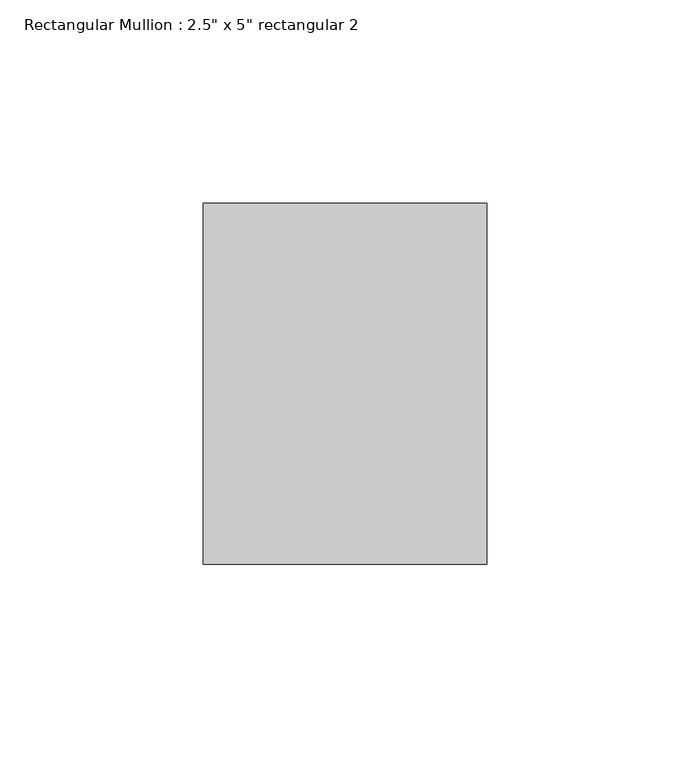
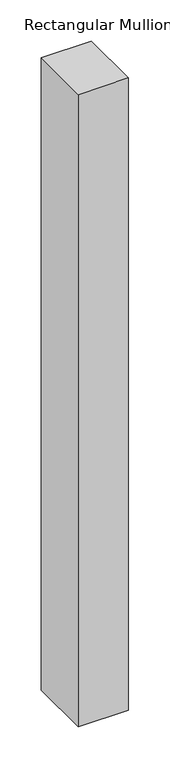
"""IFC4 building model written with IfcOpenShell, lengths in millimetres: member geometry."""

from ifc_helpers import new_model, si_unit, frame, origin, place, context, project, spatial, polyline, outline, extrude, source, transform, mapped, element, save


def member_37db2805(model_context):
    return source(origin(), model_context, "Body", "SweptSolid", [
        extrude(outline(polyline([(38.1, 44.45), (38.1, -44.45), (-31.75, -44.45), (-31.75, 44.45), (38.1, 44.45)])), frame((0.0, 0.0, -931.7559364), z_axis=(0.0, 0.0, 1.0), x_axis=(1.0, 0.0, 0.0)), (0.0, 0.0, 1.0), 931.7559364),
    ])


if __name__ == "__main__":
    model = new_model("IFC4")
    model_context = context("Model", 3, world=origin())
    ifc_project = project(units=[si_unit("LENGTHUNIT", "METRE", prefix="MILLI")], contexts=[model_context])
    site = spatial("IfcSite", under=ifc_project)
    building = spatial("IfcBuilding", under=site)
    placement = place(None, origin())
    member_shape = member_37db2805(model_context)
    element("IfcMember", 1, ObjectType="Rectangular Mullion : 2.5\" x 5\" rectangular 2", at=placement, inside=building, context=model_context, shape_type="MappedRepresentation", body=[
        mapped(member_shape, transform((0.0, 0.0, 0.0), x_axis=(1.0, 0.0, 0.0), y_axis=(0.0, 1.0, 0.0), z_axis=(0.0, 0.0, 1.0))),
    ])
    save(model, "model.ifc")
